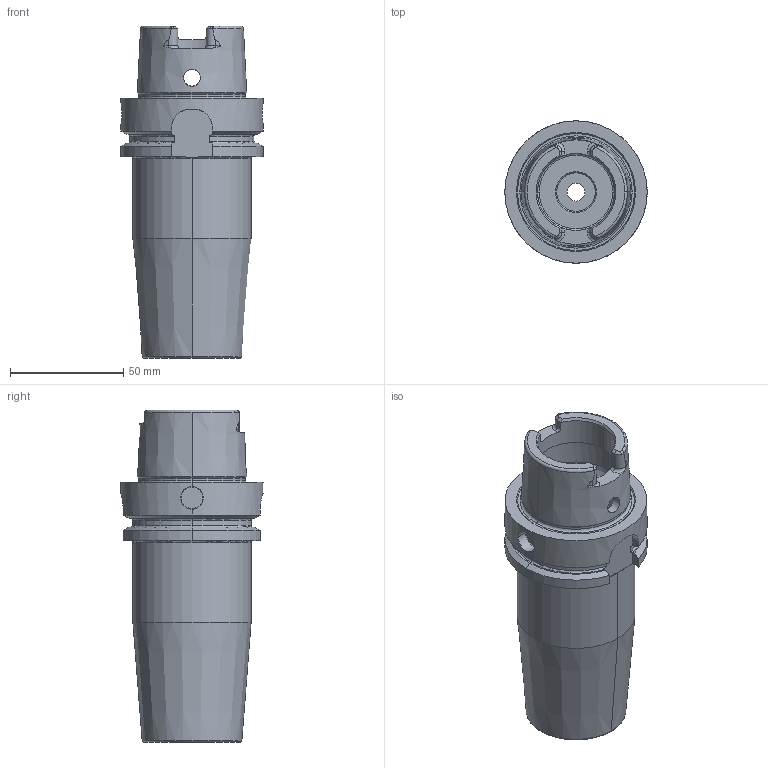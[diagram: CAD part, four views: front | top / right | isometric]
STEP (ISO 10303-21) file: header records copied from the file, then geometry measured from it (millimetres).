
FILE_DESCRIPTION (( 'STEP AP214' ), '1' );
FILE_NAME ('RHSK63ASF1000452.STEP', '2019-02-28T20:09:31', ( '' ), ( '' ), 'SwSTEP 2.0', 'SolidWorks 2019', '' );
FILE_SCHEMA (( 'AUTOMOTIVE_DESIGN' ));
Length unit declared in the file: inch
Products named in the file (2): RHSK63ASF1000452
Bounding box: 62.94 x 62.94 x 146.9 mm (x, y, z)
Volume: 220553.5 mm3; surface area: 41686.4 mm2
Topology: 1 solids, 1 shells, 172 faces, 434 edges, 266 vertices
Faces by surface type: cylinder 54, plane 50, cone 39, torus 29
Entity records: 8210 total; most frequent: CARTESIAN_POINT 1834, DIRECTION 871, ORIENTED_EDGE 868, EDGE_CURVE 434, AXIS2_PLACEMENT_3D 355, VERTEX_POINT 266, CIRCLE 181, EDGE_LOOP 180
